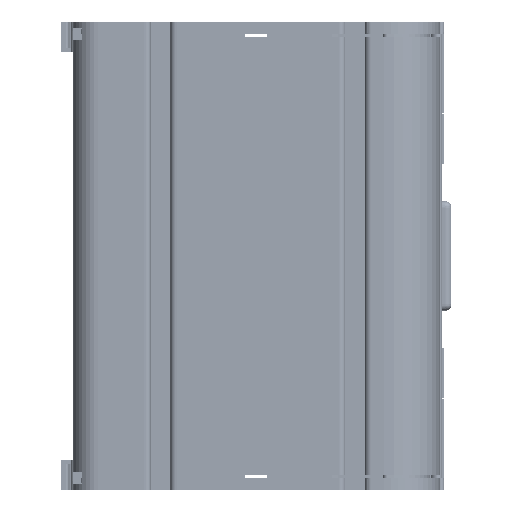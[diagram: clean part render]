
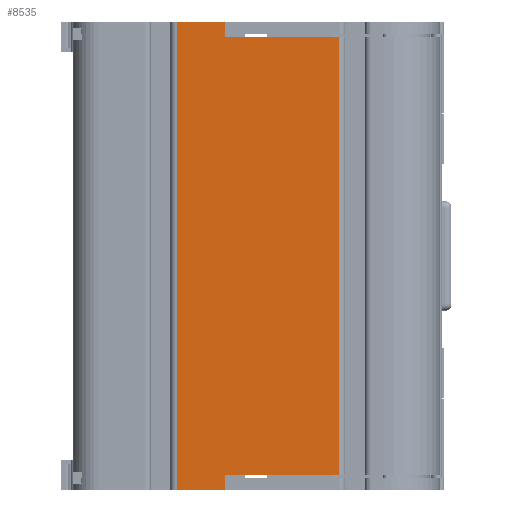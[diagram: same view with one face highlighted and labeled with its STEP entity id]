
A CAD part, front view. The second image highlights one B-rep face of the part: STEP entity #8535.
In plain terms, the highlighted planar face has unit normal (0, -1, 0).
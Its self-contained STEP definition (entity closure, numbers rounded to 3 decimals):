
#8535=ADVANCED_FACE('',(#12189),#10615,.F.);
#10615=PLANE('',#47245);
#12189=FACE_OUTER_BOUND('',#14106,.T.);
#14106=EDGE_LOOP('',(#18697,#18698,#18699,#18700,#18701,#18702,#18703,#18704));
#18697=ORIENTED_EDGE('',*,*,#33142,.F.);
#18698=ORIENTED_EDGE('',*,*,#33143,.T.);
#18699=ORIENTED_EDGE('',*,*,#33144,.F.);
#18700=ORIENTED_EDGE('',*,*,#33145,.T.);
#18701=ORIENTED_EDGE('',*,*,#33146,.T.);
#18702=ORIENTED_EDGE('',*,*,#33147,.F.);
#18703=ORIENTED_EDGE('',*,*,#33148,.T.);
#18704=ORIENTED_EDGE('',*,*,#33149,.T.);
#29010=VERTEX_POINT('',#63866);
#29011=VERTEX_POINT('',#63867);
#29012=VERTEX_POINT('',#63869);
#29013=VERTEX_POINT('',#63871);
#29014=VERTEX_POINT('',#63873);
#29015=VERTEX_POINT('',#63875);
#29016=VERTEX_POINT('',#63877);
#29017=VERTEX_POINT('',#63879);
#33142=EDGE_CURVE('',#29010,#29011,#38692,.T.);
#33143=EDGE_CURVE('',#29010,#29012,#38693,.T.);
#33144=EDGE_CURVE('',#29013,#29012,#38694,.T.);
#33145=EDGE_CURVE('',#29013,#29014,#38695,.T.);
#33146=EDGE_CURVE('',#29014,#29015,#38696,.T.);
#33147=EDGE_CURVE('',#29016,#29015,#38697,.T.);
#33148=EDGE_CURVE('',#29016,#29017,#38698,.T.);
#33149=EDGE_CURVE('',#29017,#29011,#38699,.T.);
#38692=LINE('',#63865,#42613);
#38693=LINE('',#63868,#42614);
#38694=LINE('',#63870,#42615);
#38695=LINE('',#63872,#42616);
#38696=LINE('',#63874,#42617);
#38697=LINE('',#63876,#42618);
#38698=LINE('',#63878,#42619);
#38699=LINE('',#63880,#42620);
#42613=VECTOR('',#50949,1.);
#42614=VECTOR('',#50950,1.);
#42615=VECTOR('',#50951,1.);
#42616=VECTOR('',#50952,1.);
#42617=VECTOR('',#50953,1.);
#42618=VECTOR('',#50954,1.);
#42619=VECTOR('',#50955,1.);
#42620=VECTOR('',#50956,1.);
#47245=AXIS2_PLACEMENT_3D('',#63881,#50957,#50958);
#50949=DIRECTION('',(-1.,0.,0.));
#50950=DIRECTION('',(0.,0.,1.));
#50951=DIRECTION('',(-1.,0.,0.));
#50952=DIRECTION('',(0.,0.,1.));
#50953=DIRECTION('',(-1.,0.,0.));
#50954=DIRECTION('',(0.,0.,-1.));
#50955=DIRECTION('',(-1.,0.,0.));
#50956=DIRECTION('',(0.,0.,-1.));
#50957=DIRECTION('',(0.,1.,0.));
#50958=DIRECTION('',(0.,0.,1.));
#63865=CARTESIAN_POINT('',(66.574,-2.624,-23.999));
#63866=CARTESIAN_POINT('',(-5.447,-2.624,-23.999));
#63867=CARTESIAN_POINT('',(-16.747,-2.624,-23.999));
#63868=CARTESIAN_POINT('',(-5.447,-2.624,7.925));
#63869=CARTESIAN_POINT('',(-5.447,-2.624,-20.499));
#63870=CARTESIAN_POINT('',(66.574,-2.624,-20.499));
#63871=CARTESIAN_POINT('',(21.053,-2.624,-20.499));
#63872=CARTESIAN_POINT('',(21.053,-2.624,-281.));
#63873=CARTESIAN_POINT('',(21.053,-2.624,81.501));
#63874=CARTESIAN_POINT('',(66.574,-2.624,81.501));
#63875=CARTESIAN_POINT('',(-5.447,-2.624,81.501));
#63876=CARTESIAN_POINT('',(-5.447,-2.624,119.));
#63877=CARTESIAN_POINT('',(-5.447,-2.624,85.001));
#63878=CARTESIAN_POINT('',(66.574,-2.624,85.001));
#63879=CARTESIAN_POINT('',(-16.747,-2.624,85.001));
#63880=CARTESIAN_POINT('',(-16.747,-2.624,-396.));
#63881=CARTESIAN_POINT('',(66.574,-2.624,119.));
